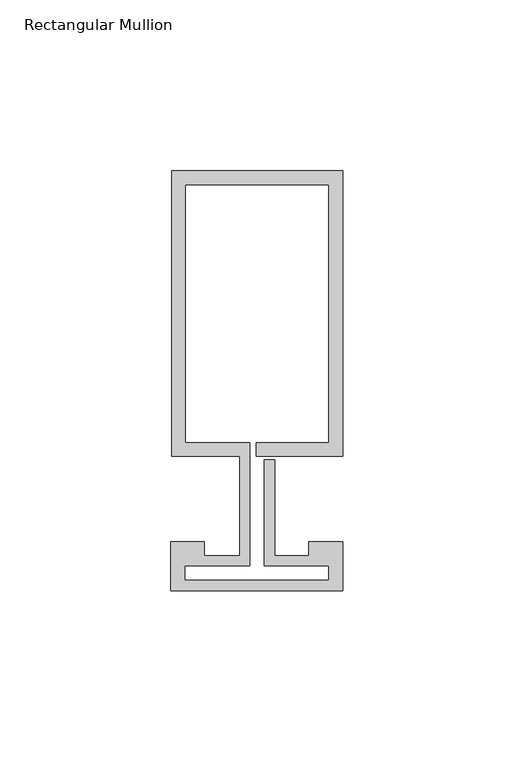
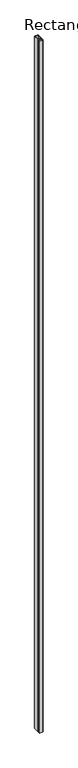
"""IFC4 building model written with IfcOpenShell, lengths in millimetres: member geometry, Rectangular Mullion : Reynaers_CW-50_Mullion-Transom_Vertical_83.5mm_Facecap-02A."""

import ifcopenshell
import ifcopenshell.guid

model = None  # the IFC model being written
_history = None  # IfcOwnerHistory: only IFC2X3 demands one
_inside = {}  # id of a spatial element -> (the spatial element, [elements in it])
_under = {}  # id of a project, library or spatial element -> (it, [spatial elements below it])
_declared = {}  # id of a project -> (the project, [libraries it declares])
_typed = {}  # id of a type object -> (the type object, [elements of that type])
_made_of = {}  # id of a material, layer set ... -> (it, [elements and type objects made of it])


def new_model(schema):
    """Start an empty IFC model of exactly this schema.

    Asked for "IFC4X3", IfcOpenShell would pick the latest addendum, in which some entities
    have other attributes; the version numbers below select the first issue.
    IFC2X3 requires an IfcOwnerHistory on every rooted entity: one is made here for all.
    """
    global model, _history
    if schema == "IFC4X3":
        model = ifcopenshell.file(schema_version=(4, 3, 0, 0))
    else:
        model = ifcopenshell.file(schema=schema)
    _inside.clear()
    _under.clear()
    _declared.clear()
    _typed.clear()
    _made_of.clear()
    _history = None
    if model.schema == "IFC2X3":
        org = make("IfcOrganization", Name="unknown")
        user = make(
            "IfcPersonAndOrganization",
            ThePerson=make("IfcPerson", FamilyName="unknown"),
            TheOrganization=org,
        )
        app = make(
            "IfcApplication",
            ApplicationDeveloper=org,
            Version="unknown",
            ApplicationFullName="unknown",
            ApplicationIdentifier="unknown",
        )
        _history = make(
            "IfcOwnerHistory",
            OwningUser=user,
            OwningApplication=app,
            ChangeAction="ADDED",
            CreationDate=0,
        )
    return model


def make(cls, **values):
    """One entity of the class cls with the attributes given. An attribute that is None is left unset."""
    return model.create_entity(
        cls, **{name: value for name, value in values.items() if value is not None}
    )


def rooted(cls, **values):
    """An entity with a GlobalId (a new one), such as an element, a storey or a relation."""
    return make(cls, GlobalId=ifcopenshell.guid.new(), OwnerHistory=_history, **values)


def si_unit(unit_type, name, prefix=None):
    """IfcSIUnit, for example si_unit("LENGTHUNIT", "METRE", prefix="MILLI")."""
    return make("IfcSIUnit", UnitType=unit_type, Prefix=prefix, Name=name)


def assignment(units):
    """IfcUnitAssignment: the units of a project."""
    return None if units is None else make("IfcUnitAssignment", Units=units)


def point(xyz):
    """IfcCartesianPoint."""
    return None if xyz is None else make("IfcCartesianPoint", Coordinates=xyz)


def direction(xyz):
    """IfcDirection."""
    return None if xyz is None else make("IfcDirection", DirectionRatios=xyz)


def frame(location, z_axis=None, x_axis=None):
    """IfcAxis2Placement3D, a coordinate frame: its origin and axes. An axis left out is left unset."""
    return make(
        "IfcAxis2Placement3D",
        Location=point(location),
        Axis=direction(z_axis),
        RefDirection=direction(x_axis),
    )


def origin():
    """The frame at (0, 0, 0) with its axes left unset."""
    return frame((0.0, 0.0, 0.0))


def place(relative_to, where):
    """IfcLocalPlacement: puts the frame where relative to a parent placement (None: the world)."""
    return make(
        "IfcLocalPlacement", PlacementRelTo=relative_to, RelativePlacement=where
    )


def context(
    kind, dimensions, precision=None, world=None, true_north=None, identifier=None
):
    """IfcGeometricRepresentationContext, for example the 3D "Model" context."""
    return make(
        "IfcGeometricRepresentationContext",
        ContextIdentifier=identifier,
        ContextType=kind,
        CoordinateSpaceDimension=dimensions,
        Precision=precision,
        WorldCoordinateSystem=world,
        TrueNorth=true_north,
    )


def project(units=None, contexts=None):
    """IfcProject with its units and contexts."""
    return rooted(
        "IfcProject",
        Name="project",
        RepresentationContexts=contexts,
        UnitsInContext=assignment(units),
    )


def spatial(cls, under=None, at=None, **own):
    """A site, building, storey or space (cls), placed at a placement, below another one or the project."""
    s = rooted(cls, ObjectPlacement=at, **own)
    if under is not None:
        _under.setdefault(under.id(), (under, []))[1].append(s)
    return s


def polyline(points):
    """IfcPolyline through the points."""
    return make("IfcPolyline", Points=[point(p) for p in points])


def outline(outer, holes=None, kind="AREA"):
    """IfcArbitraryClosedProfileDef: a profile drawn as a closed curve; with holes, ...WithVoids."""
    if holes is None:
        return make("IfcArbitraryClosedProfileDef", ProfileType=kind, OuterCurve=outer)
    return make(
        "IfcArbitraryProfileDefWithVoids",
        ProfileType=kind,
        OuterCurve=outer,
        InnerCurves=holes,
    )


def extrude(swept, where, along, depth):
    """IfcExtrudedAreaSolid: the profile swept, set in the frame where, extruded along a direction by depth."""
    return make(
        "IfcExtrudedAreaSolid",
        SweptArea=swept,
        Position=where,
        ExtrudedDirection=direction(along),
        Depth=depth,
    )


def shape(context_of_items, identifier, shape_type, items):
    """IfcShapeRepresentation: the items that make up one representation, for example the "Body"."""
    return make(
        "IfcShapeRepresentation",
        ContextOfItems=context_of_items,
        RepresentationIdentifier=identifier,
        RepresentationType=shape_type,
        Items=items,
    )


def source(mapping_origin, context_of_items, identifier, shape_type, items):
    """IfcRepresentationMap: a shape defined once, which mapped items show again and again."""
    return make(
        "IfcRepresentationMap",
        MappingOrigin=mapping_origin,
        MappedRepresentation=shape(context_of_items, identifier, shape_type, items),
    )


def transform(
    local_origin,
    x_axis=None,
    y_axis=None,
    z_axis=None,
    scale=None,
    scale2=None,
    scale3=None,
    uniform=True,
):
    """IfcCartesianTransformationOperator3D, or its non-uniform kind. x_axis, y_axis, z_axis: its Axis1, 2, 3."""
    if uniform:
        return make(
            "IfcCartesianTransformationOperator3D",
            Axis1=direction(x_axis),
            Axis2=direction(y_axis),
            LocalOrigin=point(local_origin),
            Scale=scale,
            Axis3=direction(z_axis),
        )
    return make(
        "IfcCartesianTransformationOperator3DnonUniform",
        Axis1=direction(x_axis),
        Axis2=direction(y_axis),
        LocalOrigin=point(local_origin),
        Scale=scale,
        Axis3=direction(z_axis),
        Scale2=scale2,
        Scale3=scale3,
    )


def mapped(mapping_source, mapping_target):
    """IfcMappedItem: shows the shape of a source again, moved by a transform."""
    return make(
        "IfcMappedItem", MappingSource=mapping_source, MappingTarget=mapping_target
    )


def made_of(thing, what):
    """Note that an element or type object is made of a material, layer set ...; save() writes the relation."""
    if what is not None:
        _made_of.setdefault(what.id(), (what, []))[1].append(thing)
    return thing


def element(
    cls,
    number,
    at=None,
    inside=None,
    cuts=None,
    type_object=None,
    material=None,
    context=None,
    identifier="Body",
    shape_type=None,
    held_by="IfcProductDefinitionShape",
    body=None,
    shapes=None,
    **own,
):
    """One element of the class cls, such as IfcWall. Its Tag is "e" and its number.

    at: its placement. inside: the storey or other place that contains it. cuts: it is an
    opening in that element (IfcRelVoidsElement). A single representation is given by context,
    identifier, shape_type and body (its items); several are given by shapes. held_by: the class
    of the entity that holds the representations. save() writes the other relations.
    """
    e = rooted(cls, Tag="e%d" % number, ObjectPlacement=at, **own)
    if body is not None:
        shapes = [shape(context, identifier, shape_type, body)]
    if shapes is not None:
        e.Representation = make(held_by, Representations=shapes)
    if inside is not None:
        _inside.setdefault(inside.id(), (inside, []))[1].append(e)
    if cuts is not None:
        rooted(
            "IfcRelVoidsElement", RelatingBuildingElement=cuts, RelatedOpeningElement=e
        )
    if type_object is not None:
        _typed.setdefault(type_object.id(), (type_object, []))[1].append(e)
    return made_of(e, material)


def aggregate(whole, parts):
    """IfcRelAggregates: a whole, such as a stair, and the parts it consists of."""
    return rooted("IfcRelAggregates", RelatingObject=whole, RelatedObjects=parts)


def save(model, path):
    """Write the relations noted so far, then the file.

    IfcRelAggregates (storeys below a building ...), IfcRelContainedInSpatialStructure (elements
    in a storey), IfcRelDefinesByType, IfcRelAssociatesMaterial and IfcRelDeclares: one each for
    every whole, place, type object, material and project.
    """
    for whole, parts in _under.values():
        aggregate(whole, parts)
    for where, things in _inside.values():
        rooted(
            "IfcRelContainedInSpatialStructure",
            RelatedElements=things,
            RelatingStructure=where,
        )
    for kind, things in _typed.values():
        rooted("IfcRelDefinesByType", RelatedObjects=things, RelatingType=kind)
    for what, things in _made_of.values():
        rooted("IfcRelAssociatesMaterial", RelatedObjects=things, RelatingMaterial=what)
    for by, libraries in _declared.values():
        rooted("IfcRelDeclares", RelatingContext=by, RelatedDefinitions=libraries)
    model.write(path)


def rectangular_mullion_000f3edf(model_context):
    return source(origin(), model_context, "Body", "SweptSolid", [
        extrude(outline(polyline([(-24.8004059, 96.0), (25.1995941, 96.0), (25.1995941, 12.5), (0.0, 12.5), (0.0, 16.5), (21.1995941, 16.5), (21.1995941, 92.0), (-20.8004059, 92.0), (-20.8004059, 16.5), (-1.9004059, 16.5), (-1.9004059, -19.5), (-20.994845, -19.5), (-20.994845, -23.7191338), (21.1995941, -23.7191338), (21.1995941, -19.5), (2.2995941, -19.5), (2.2995941, 11.5), (5.2995941, 11.5), (5.2995941, -16.5), (15.2996495, -16.5), (15.2996495, -12.5), (25.1995941, -12.5), (25.1995941, -26.8), (-24.994845, -26.8), (-24.994845, -12.5), (-15.2996495, -12.5), (-15.2996495, -16.5), (-4.9004059, -16.5), (-4.9004059, 12.5), (-24.8004059, 12.5), (-24.8004059, 96.0)])), frame((0.0, 0.0, -10400.0), z_axis=(0.0, 0.0, 1.0), x_axis=(1.0, 0.0, 0.0)), (0.0, 0.0, 1.0), 10400.0),
    ])


if __name__ == "__main__":
    model = new_model("IFC4")
    model_context = context("Model", 3, world=origin())
    ifc_project = project(units=[si_unit("LENGTHUNIT", "METRE", prefix="MILLI")], contexts=[model_context])
    site = spatial("IfcSite", under=ifc_project)
    building = spatial("IfcBuilding", under=site)
    placement = place(None, origin())
    rectangular_mullion_shape = rectangular_mullion_000f3edf(model_context)
    element("IfcMember", 1, ObjectType="Rectangular Mullion : Reynaers_CW-50_Mullion-Transom_Vertical_83.5mm_Facecap-02A", at=placement, inside=building, context=model_context, shape_type="MappedRepresentation", body=[
        mapped(rectangular_mullion_shape, transform((0.0, 0.0, 0.0), x_axis=(1.0, 0.0, 0.0), y_axis=(0.0, 1.0, 0.0), z_axis=(0.0, 0.0, 1.0))),
    ])
    save(model, "model.ifc")
